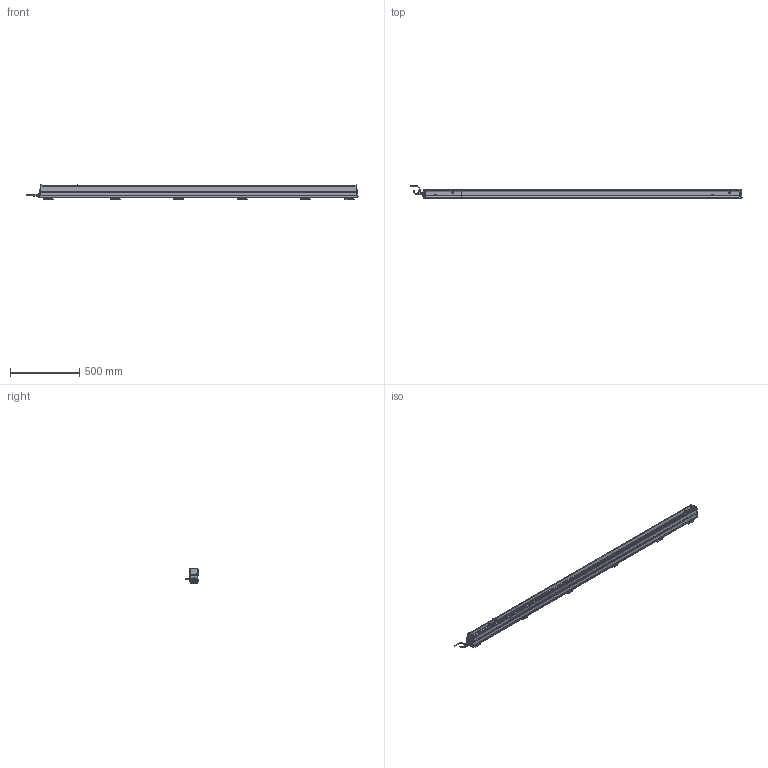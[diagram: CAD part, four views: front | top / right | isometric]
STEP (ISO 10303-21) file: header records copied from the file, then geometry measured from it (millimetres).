
FILE_DESCRIPTION(/* description */ (''),/* implementation_level */ '2;1');
FILE_NAME(/* name */ 'THUNDERION2_3D_2125-2195',/* time_stamp */ '2017-09-28T11:01:12+02:00',/* author */ (''),/* organization */ (''),/* preprocessor_version */ 'ST-DEVELOPER v15.7',/* originating_system */ 'HiCAD 2015 2002.1 Build 408',/* authorisation */ '');
FILE_SCHEMA (('AUTOMOTIVE_DESIGN { 1 0 10303 214 1 1 1 1 }'));
Products named in the file (118): Root; -_ThunderION 2125/2320; -_Side profile; -_Bar; -_Connector straight; EXTRUDED SOLID_0; -_Cord; REVOLVED SOLID_1; REVOLVED SOLID_3; DIN 13-M12x1,5; -_Connector angled; REVOLVED SOLID_2; 4532000100_Mounting bracket bars; -_Side piece; -_Slide piece; -_Bracket small; DIN 13-M3; DIN 76-M3; -_Cable End; light pipe M; light pipe L; -_Cap CE; -_Stud M4; -_Connector M12 male 5 pole_1; -_Contacts; ABSR_1_2_1_1_Inner part; ABSR_1_2_1_2_Inner part; bus; Pg 9; -_Ring tongue terminal; 9230000020_Nut M4; GEWINDE; 9240100020_Spring washer M4; ISO 7051-ST3.5x9.5-C-H_Tapping screws_0; -_Fill; -_Dead end; -_Cap DE; -_Emitter; -_Support Side Profile; -_End Plate
Assembly tree (117 placements, depth 6):
  Root
    -_ThunderION 2125/2320
      -_Side profile
      -_Side profile
      -_Bar
      -_Connector straight
        EXTRUDED SOLID_0
        -_Cord
        REVOLVED SOLID_1
        REVOLVED SOLID_3
          DIN 13-M12x1,5
      -_Connector angled
        REVOLVED SOLID_1
        EXTRUDED SOLID_0
        -_Cord
        REVOLVED SOLID_2
        REVOLVED SOLID_3
          DIN 13-M12x1,5
      4532000100_Mounting bracket bars
        -_Side piece
        -_Side piece
        -_Slide piece
        -_Bracket small
          DIN 13-M3
          DIN 13-M3
          DIN 76-M3
          DIN 76-M3
      4532000100_Mounting bracket bars
        -_Side piece
        -_Side piece
        -_Slide piece
        -_Bracket small
          DIN 13-M3
          DIN 13-M3
          DIN 76-M3
          DIN 76-M3
      4532000100_Mounting bracket bars
        -_Side piece
        -_Side piece
        -_Slide piece
        -_Bracket small
          DIN 13-M3
          DIN 13-M3
          DIN 76-M3
          DIN 76-M3
      4532000100_Mounting bracket bars
        -_Side piece
        -_Side piece
        -_Slide piece
        -_Bracket small
          DIN 13-M3
          DIN 13-M3
          DIN 76-M3
          DIN 76-M3
      4532000100_Mounting bracket bars
        -_Side piece
        -_Side piece
        -_Slide piece
        -_Bracket small
          DIN 13-M3
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Bounding box: 2398.34 x 92.24 x 113 mm (x, y, z)
Volume: 7345392 mm3; surface area: 1714373.1 mm2
Topology: 109 solids, 127 shells, 5481 faces, 14031 edges, 8509 vertices
Faces by surface type: plane 2289, cylinder 2170, bspline 312, torus 284, sphere 253, cone 173
Full cylindrical faces by diameter (mm): 0.8 x10, 1 x10, 2.387 x24, 2.5 x1, 2.64 x16, 3 x48, 3.141 x2, 3.5 x8, 4 x26, 4.2 x3, 4.4 x1, 5 x4, 5.5 x30, 7.3 x8, 8 x2, 8.4 x2, 9 x6, 9.6 x1, 10 x2, 10.16 x1, 10.5 x2, 11 x4, 12 x5, 12.8 x1, 13.8 x4, 13.86 x1, 14.5 x3, 15.199 x1, 15.2 x1
Entity records: 326921 total; most frequent: CARTESIAN_POINT 91888, DIRECTION 27093, PRESENTATION_STYLE_ASSIGNMENT 26525, OVER_RIDING_STYLED_ITEM 26420, DRAUGHTING_PRE_DEFINED_CURVE_FONT 26378, CURVE_STYLE 26378, ORIENTED_EDGE 26378, EDGE_CURVE 13189
